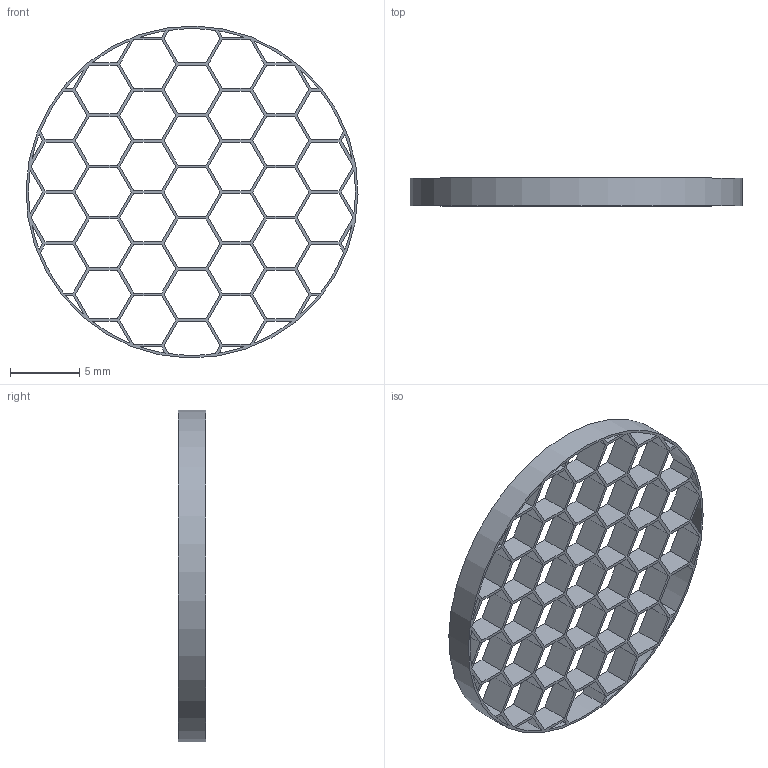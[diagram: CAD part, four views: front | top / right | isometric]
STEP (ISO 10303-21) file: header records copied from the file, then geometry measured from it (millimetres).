
FILE_DESCRIPTION((''),'2;1');
FILE_NAME('KC-0006-0229','2025-08-02T08:23:53',('YF-06'),(''),'CREO PARAMETRIC BY PTC INC, 2022073','CREO PARAMETRIC BY PTC INC, 2022073','');
FILE_SCHEMA(('CONFIG_CONTROL_DESIGN','SHAPE_APPEARANCE_LAYERS_GROUPS'));
Length unit declared in the file: millimetre
Products named in the file (1): KC-0006-0229
Bounding box: 24 x 2 x 23.99 mm (x, y, z)
Volume: 126 mm3; surface area: 1330.9 mm2
Topology: 1 solids, 1 shells, 280 faces, 834 edges, 556 vertices
Faces by surface type: plane 254, cylinder 26
Entity records: 9565 total; most frequent: CARTESIAN_POINT 1670, ORIENTED_EDGE 1668, DIRECTION 1446, EDGE_CURVE 834, VECTOR 782, LINE 782, VERTEX_POINT 556, EDGE_LOOP 390
